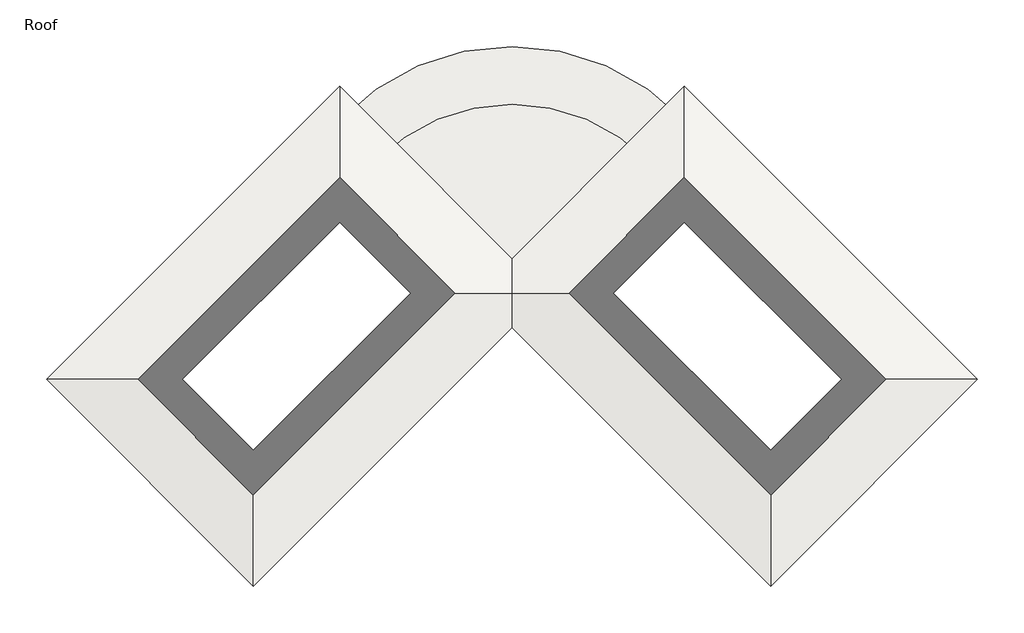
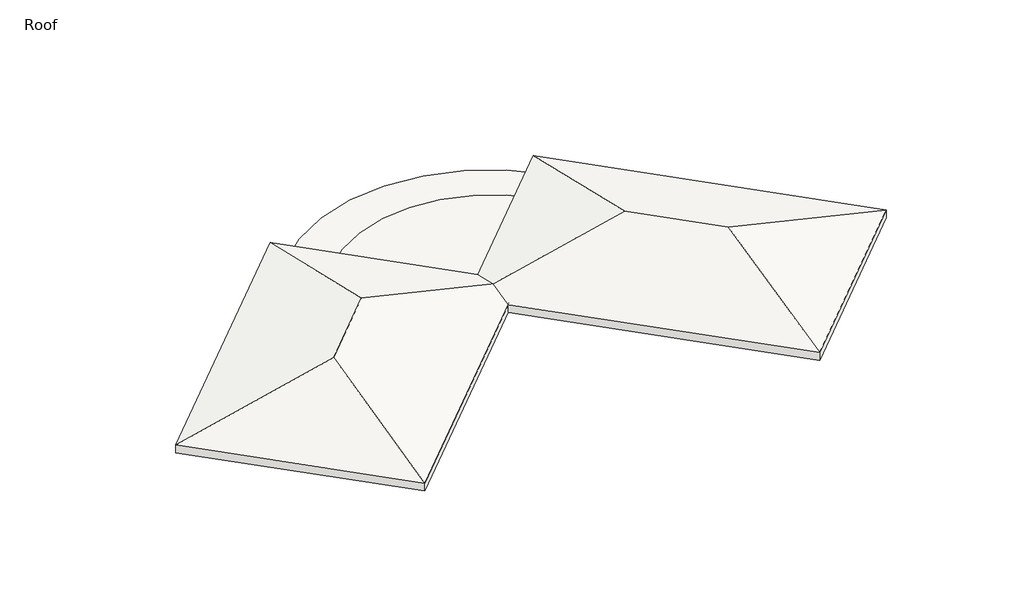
# One storey: 4 roofs.
"""IFC4 building model written with IfcOpenShell, lengths in millimetres."""

from ifc_helpers import new_model, si_unit, point, frame, frame_2d, origin, place, context, project, spatial, polyline, circle_curve, trimmed, segment, composite_curve, outline, extrude, faceted_brep, element, save

model = new_model("IFC4")

# Units and contexts
model_context = context("Model", 3, world=origin())
ifc_project = project(units=[si_unit("LENGTHUNIT", "METRE", prefix="MILLI")], contexts=[model_context])

# Site, building, storey
site = spatial("IfcSite", under=ifc_project)
building = spatial("IfcBuilding", under=site)
storey = spatial("IfcBuildingStorey", under=building, Name="Roof", Elevation=4571.7250795)

# Roofs
placement = place(None, origin())
element("IfcRoof", 1, ObjectType="Steel Bar Joist - Steel Deck - EPDM Membrane", at=placement, inside=storey, context=model_context, shape_type="Brep", body=[
    faceted_brep([(-10222.2915721, 1994.6523161, 6603.1400615), (-10222.2915721, 12341.0387384, 4165.1754932), (124.0948502, 1994.6523161, 4165.1754932), (-24879.2009326, -2315.870622, 4165.1754932), (-14532.8145102, -2315.870622, 6603.1400615), (-14532.8145102, -12662.2570444, 4165.1754932), (-10222.2915721, 12341.0387384, 4697.4769091), (-10222.2915721, 1994.6523161, 7135.4414774), (124.0948502, 1994.6523161, 4697.4769091), (-24879.2009326, -2315.870622, 4697.4769091), (-14532.8145102, -12662.2570444, 4697.4769091), (-14532.8145102, -2315.870622, 7135.4414774)], [[[0, 1, 2]], [[3, 4, 5]], [[1, 0, 4, 3]], [[5, 4, 0, 2]], [[6, 7, 8]], [[9, 10, 11]], [[6, 9, 11, 7]], [[10, 8, 7, 11]], [[3, 9, 6, 1]], [[5, 10, 9, 3]], [[2, 8, 10, 5]], [[1, 6, 8, 2]]]),
])
element("IfcRoof", 2, ObjectType="Steel Bar Joist - Steel Deck - EPDM Membrane", at=placement, inside=storey, context=model_context, shape_type="SweptSolid", body=[
    extrude(outline(composite_curve([segment(trimmed(circle_curve(frame_2d((-1601.2456959, 1994.6523161)), 9450.0), [point((-8427.0017491, 8530.0600541))], [point((5225.8928338, 8528.6158526))], False, "CARTESIAN"), True, "CONTINUOUS"), segment(polyline([(5225.8928338, 8528.6158526), (-1746.4198535, 1849.4781585), (-8427.0017491, 8530.0600541)]), True, "CONTINUOUS")], self_intersect=False)), frame((0.0, 0.0, 4164.7250795), z_axis=(0.0, 0.0, 1.0), x_axis=(1.0, 0.0, 0.0)), (0.0, 0.0, 1.0), 505.0),
])
element("IfcRoof", 3, ObjectType="Steel Bar Joist - Steel Deck - EPDM Membrane", at=placement, inside=storey, context=model_context, shape_type="Brep", body=[
    faceted_brep([(7019.8001803, 12341.0387384, 4165.1754932), (7019.8001803, 1994.6523161, 6603.1400615), (-3326.586242, 1994.6523161, 4165.1754932), (11330.3231184, -12662.2570444, 4165.1754932), (11330.3231184, -2315.870622, 6603.1400615), (21676.7095408, -2315.870622, 4165.1754932), (7019.8001803, 12341.0387384, 4697.4769091), (-3326.586242, 1994.6523161, 4697.4769091), (7019.8001803, 1994.6523161, 7135.4414774), (11330.3231184, -12662.2570444, 4697.4769091), (21676.7095408, -2315.870622, 4697.4769091), (11330.3231184, -2315.870622, 7135.4414774)], [[[0, 1, 2]], [[3, 4, 5]], [[1, 0, 5, 4]], [[2, 1, 4, 3]], [[6, 7, 8]], [[9, 10, 11]], [[6, 8, 11, 10]], [[7, 9, 11, 8]], [[0, 6, 10, 5]], [[5, 10, 9, 3]], [[3, 9, 7, 2]], [[2, 7, 6, 0]]]),
])
element("IfcRoof", 4, ObjectType="Steel Bar Joist - Steel Deck - EPDM Membrane", at=placement, inside=storey, context=model_context, shape_type="SweptSolid", body=[
    extrude(outline(composite_curve([segment(polyline([(-1601.2456959, 1994.6523161), (-10222.2915721, 10615.6981923)]), True, "CONTINUOUS"), segment(trimmed(circle_curve(frame_2d((-1601.2456959, 2464.5811818)), 11864.3643116), [point((-10222.2915721, 10615.6981923))], [point((7019.8001803, 10615.6981923))], False, "CARTESIAN"), True, "CONTINUOUS"), segment(polyline([(7019.8001803, 10615.6981923), (-1601.2456959, 1994.6523161)]), True, "CONTINUOUS")], self_intersect=False)), frame((0.0, 0.0, 3911.7250795), z_axis=(0.0, 0.0, 1.0), x_axis=(1.0, 0.0, 0.0)), (0.0, 0.0, 1.0), 505.0),
])

save(model, "model.ifc")
